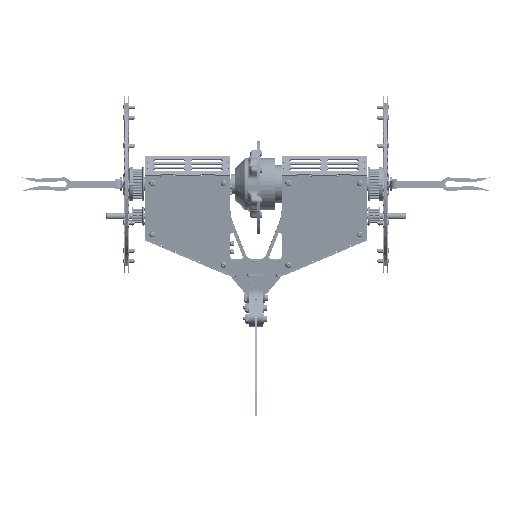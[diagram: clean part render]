
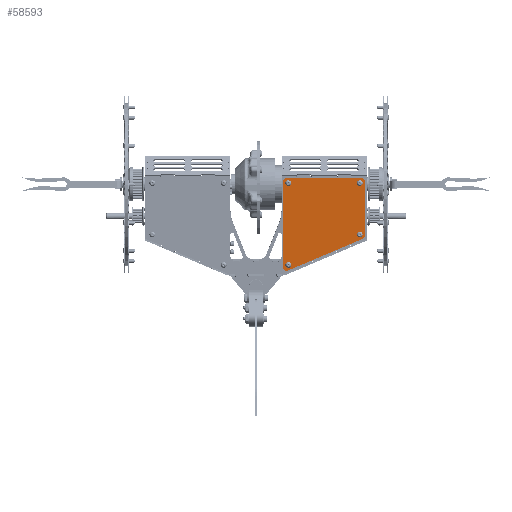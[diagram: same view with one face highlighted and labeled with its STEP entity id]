
A CAD part, front view. The second image highlights one B-rep face of the part: STEP entity #58593.
In plain terms, the highlighted planar face has unit normal (0, -0.993, -0.115) as drawn and (0, -1, 0) by its records, which use the part's own axes.
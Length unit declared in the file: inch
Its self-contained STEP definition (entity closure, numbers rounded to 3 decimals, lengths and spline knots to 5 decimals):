
#5870 = VERTEX_POINT ( 'NONE', #166911 ) ;
#6868 = CARTESIAN_POINT ( 'NONE',  ( 0.1875, 0., -3.15272 ) ) ;
#11247 = CARTESIAN_POINT ( 'NONE',  ( 0., 0., 0. ) ) ;
#15802 = EDGE_CURVE ( 'NONE', #239726, #79370, #168351, .T. ) ;
#16168 = EDGE_CURVE ( 'NONE', #133159, #5870, #174801, .T. ) ;
#16358 = EDGE_LOOP ( 'NONE', ( #32930 ) ) ;
#18861 = DIRECTION ( 'NONE',  ( 0., -1., 0. ) ) ;
#20187 = CARTESIAN_POINT ( 'NONE',  ( 0.125, 0., 0. ) ) ;
#21487 = ORIENTED_EDGE ( 'NONE', *, *, #138156, .T. ) ;
#29943 = EDGE_CURVE ( 'NONE', #246440, #79370, #248922, .T. ) ;
#32930 = ORIENTED_EDGE ( 'NONE', *, *, #130134, .T. ) ;
#34705 = DIRECTION ( 'NONE',  ( 1., 0., 0. ) ) ;
#39258 = DIRECTION ( 'NONE',  ( 0., -1., 0. ) ) ;
#43459 = EDGE_CURVE ( 'NONE', #222700, #222700, #153768, .T. ) ;
#45582 = AXIS2_PLACEMENT_3D ( 'NONE', #154140, #214207, #212919 ) ;
#46082 = DIRECTION ( 'NONE',  ( 0., 0., 1. ) ) ;
#49397 = DIRECTION ( 'NONE',  ( 0., 0., -1. ) ) ;
#51433 = AXIS2_PLACEMENT_3D ( 'NONE', #89107, #248454, #46082 ) ;
#54332 = LINE ( 'NONE', #130112, #197365 ) ;
#58593 = ADVANCED_FACE ( 'NONE', ( #204889, #164411, #210014, #148653, #129058 ), #108196, .T. ) ;
#59579 = DIRECTION ( 'NONE',  ( 0., 0., 1. ) ) ;
#63840 = EDGE_CURVE ( 'NONE', #100697, #155046, #137685, .T. ) ;
#65210 = ORIENTED_EDGE ( 'NONE', *, *, #204339, .T. ) ;
#69759 = AXIS2_PLACEMENT_3D ( 'NONE', #118447, #76636, #59579 ) ;
#70282 = DIRECTION ( 'NONE',  ( 0., -1., 0. ) ) ;
#71783 = CIRCLE ( 'NONE', #225916, 0.125 ) ;
#71911 = ORIENTED_EDGE ( 'NONE', *, *, #118264, .T. ) ;
#72043 = VERTEX_POINT ( 'NONE', #86477 ) ;
#76373 = CIRCLE ( 'NONE', #247312, 0.058 ) ;
#76636 = DIRECTION ( 'NONE',  ( 0., 1., 0. ) ) ;
#79370 = VERTEX_POINT ( 'NONE', #104989 ) ;
#80413 = EDGE_CURVE ( 'NONE', #133159, #155046, #149036, .T. ) ;
#81227 = CARTESIAN_POINT ( 'NONE',  ( 2.92405, 0., -2.2472 ) ) ;
#86477 = CARTESIAN_POINT ( 'NONE',  ( 0.1875, 0., -0.1295 ) ) ;
#89107 = CARTESIAN_POINT ( 'NONE',  ( 2.8125, 0., -0.1875 ) ) ;
#93621 = CARTESIAN_POINT ( 'NONE',  ( 0.125, 0., -3.30533 ) ) ;
#95892 = ORIENTED_EDGE ( 'NONE', *, *, #119941, .F. ) ;
#98987 = CARTESIAN_POINT ( 'NONE',  ( 2.875, 0., -0.125 ) ) ;
#99375 = CARTESIAN_POINT ( 'NONE',  ( 0.125, 0., -0.125 ) ) ;
#100697 = VERTEX_POINT ( 'NONE', #241177 ) ;
#102923 = EDGE_LOOP ( 'NONE', ( #71911 ) ) ;
#104989 = CARTESIAN_POINT ( 'NONE',  ( 0., 0., -0.125 ) ) ;
#107261 = CIRCLE ( 'NONE', #69759, 0.058 ) ;
#108196 = PLANE ( 'NONE',  #204593 ) ;
#114733 = CARTESIAN_POINT ( 'NONE',  ( 0., 0., -3.49455 ) ) ;
#116292 = DIRECTION ( 'NONE',  ( 0., 0., 1. ) ) ;
#118135 = DIRECTION ( 'NONE',  ( 0., 0., -1. ) ) ;
#118264 = EDGE_CURVE ( 'NONE', #130834, #130834, #76373, .T. ) ;
#118447 = CARTESIAN_POINT ( 'NONE',  ( 0.1875, 0., -0.1875 ) ) ;
#118452 = VECTOR ( 'NONE', #199516, 39.37008 ) ;
#119472 = CARTESIAN_POINT ( 'NONE',  ( 2.875, 0., -2.13222 ) ) ;
#119941 = EDGE_CURVE ( 'NONE', #239726, #222619, #54332, .T. ) ;
#128805 = EDGE_LOOP ( 'NONE', ( #208297, #214932, #148956, #203890, #95892, #154268, #183270, #65210 ) ) ;
#129058 = FACE_OUTER_BOUND ( 'NONE', #128805, .T. ) ;
#130112 = CARTESIAN_POINT ( 'NONE',  ( 3., 0., 0. ) ) ;
#130134 = EDGE_CURVE ( 'NONE', #72043, #72043, #107261, .T. ) ;
#130834 = VERTEX_POINT ( 'NONE', #6868 ) ;
#133159 = VERTEX_POINT ( 'NONE', #81227 ) ;
#137685 = LINE ( 'NONE', #217336, #208601 ) ;
#138156 = EDGE_CURVE ( 'NONE', #252273, #252273, #180890, .T. ) ;
#140483 = CARTESIAN_POINT ( 'NONE',  ( 0., 0., -3.30533 ) ) ;
#148653 = FACE_BOUND ( 'NONE', #16358, .T. ) ;
#148956 = ORIENTED_EDGE ( 'NONE', *, *, #63840, .F. ) ;
#149036 = CIRCLE ( 'NONE', #157460, 0.125 ) ;
#153768 = CIRCLE ( 'NONE', #45582, 0.058 ) ;
#154140 = CARTESIAN_POINT ( 'NONE',  ( 2.8125, 0., -2.09094 ) ) ;
#154155 = CARTESIAN_POINT ( 'NONE',  ( 0.1875, 0., -3.21072 ) ) ;
#154268 = ORIENTED_EDGE ( 'NONE', *, *, #15802, .T. ) ;
#154314 = CARTESIAN_POINT ( 'NONE',  ( 2.8125, 0., -0.1295 ) ) ;
#155046 = VERTEX_POINT ( 'NONE', #222382 ) ;
#157276 = EDGE_LOOP ( 'NONE', ( #213478 ) ) ;
#157460 = AXIS2_PLACEMENT_3D ( 'NONE', #119472, #18861, #257850 ) ;
#164411 = FACE_BOUND ( 'NONE', #157276, .T. ) ;
#166911 = CARTESIAN_POINT ( 'NONE',  ( 0.17405, 0., -3.42031 ) ) ;
#168351 = CIRCLE ( 'NONE', #222613, 0.125 ) ;
#171990 = DIRECTION ( 'NONE',  ( 0., -1., 0. ) ) ;
#173298 = AXIS2_PLACEMENT_3D ( 'NONE', #98987, #237399, #255722 ) ;
#174801 = LINE ( 'NONE', #114733, #118452 ) ;
#179046 = DIRECTION ( 'NONE',  ( 0., 0., -1. ) ) ;
#180890 = CIRCLE ( 'NONE', #51433, 0.058 ) ;
#183270 = ORIENTED_EDGE ( 'NONE', *, *, #29943, .F. ) ;
#186109 = CARTESIAN_POINT ( 'NONE',  ( 2.8125, 0., -2.03294 ) ) ;
#188883 = DIRECTION ( 'NONE',  ( 0., 0., 1. ) ) ;
#189149 = CARTESIAN_POINT ( 'NONE',  ( 0., 0., 0. ) ) ;
#194671 = DIRECTION ( 'NONE',  ( 0., 1., 0. ) ) ;
#197365 = VECTOR ( 'NONE', #34705, 39.37008 ) ;
#199516 = DIRECTION ( 'NONE',  ( -0.92, 0., -0.392 ) ) ;
#201969 = CIRCLE ( 'NONE', #173298, 0.125 ) ;
#203890 = ORIENTED_EDGE ( 'NONE', *, *, #242079, .T. ) ;
#204339 = EDGE_CURVE ( 'NONE', #246440, #5870, #71783, .T. ) ;
#204593 = AXIS2_PLACEMENT_3D ( 'NONE', #189149, #70282, #49397 ) ;
#204608 = CARTESIAN_POINT ( 'NONE',  ( 2.875, 0., 0. ) ) ;
#204889 = FACE_BOUND ( 'NONE', #102923, .T. ) ;
#208297 = ORIENTED_EDGE ( 'NONE', *, *, #16168, .F. ) ;
#208601 = VECTOR ( 'NONE', #118135, 39.37008 ) ;
#210014 = FACE_BOUND ( 'NONE', #248148, .T. ) ;
#212919 = DIRECTION ( 'NONE',  ( 0., 0., 1. ) ) ;
#213478 = ORIENTED_EDGE ( 'NONE', *, *, #43459, .T. ) ;
#214207 = DIRECTION ( 'NONE',  ( 0., 1., 0. ) ) ;
#214932 = ORIENTED_EDGE ( 'NONE', *, *, #80413, .T. ) ;
#217336 = CARTESIAN_POINT ( 'NONE',  ( 3., 0., -2.2148 ) ) ;
#222382 = CARTESIAN_POINT ( 'NONE',  ( 3., 0., -2.13222 ) ) ;
#222613 = AXIS2_PLACEMENT_3D ( 'NONE', #99375, #39258, #179046 ) ;
#222619 = VERTEX_POINT ( 'NONE', #204608 ) ;
#222700 = VERTEX_POINT ( 'NONE', #186109 ) ;
#225916 = AXIS2_PLACEMENT_3D ( 'NONE', #93621, #171990, #251626 ) ;
#237399 = DIRECTION ( 'NONE',  ( 0., -1., 0. ) ) ;
#239726 = VERTEX_POINT ( 'NONE', #20187 ) ;
#241177 = CARTESIAN_POINT ( 'NONE',  ( 3., 0., -0.125 ) ) ;
#242079 = EDGE_CURVE ( 'NONE', #100697, #222619, #201969, .T. ) ;
#246440 = VERTEX_POINT ( 'NONE', #140483 ) ;
#247312 = AXIS2_PLACEMENT_3D ( 'NONE', #154155, #194671, #116292 ) ;
#248148 = EDGE_LOOP ( 'NONE', ( #21487 ) ) ;
#248454 = DIRECTION ( 'NONE',  ( 0., 1., 0. ) ) ;
#248922 = LINE ( 'NONE', #11247, #250753 ) ;
#250753 = VECTOR ( 'NONE', #188883, 39.37008 ) ;
#251626 = DIRECTION ( 'NONE',  ( 0., 0., -1. ) ) ;
#252273 = VERTEX_POINT ( 'NONE', #154314 ) ;
#255722 = DIRECTION ( 'NONE',  ( 0., 0., -1. ) ) ;
#257850 = DIRECTION ( 'NONE',  ( 0., 0., -1. ) ) ;
